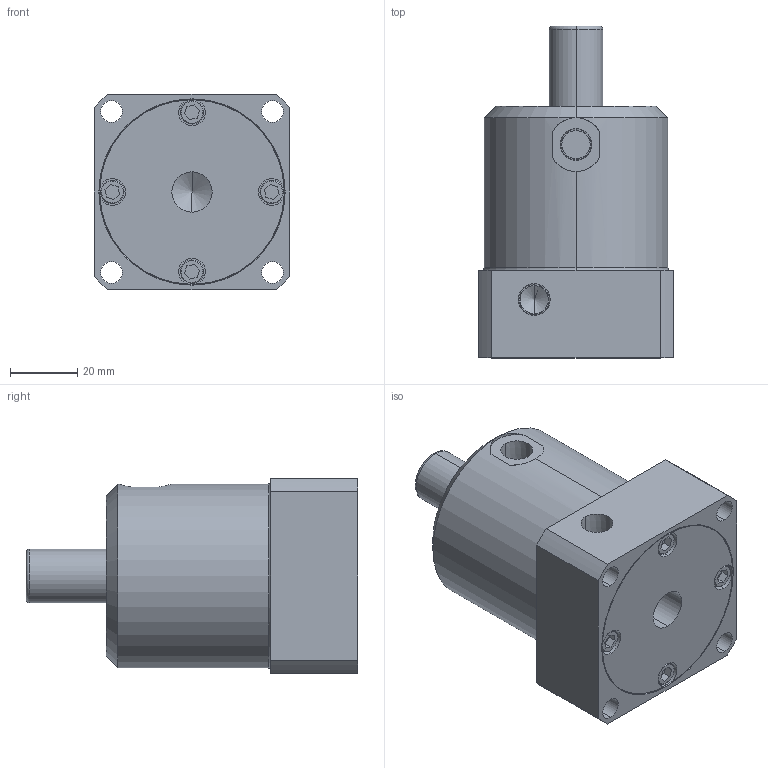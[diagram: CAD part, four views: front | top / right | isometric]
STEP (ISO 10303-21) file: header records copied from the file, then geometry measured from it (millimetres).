
FILE_DESCRIPTION((''),'2;1');
FILE_NAME('001_DESTACO_035_910_ASM','2024-02-28T',('SYSTEM'),(''),'PRO/ENGINEER BY PARAMETRIC TECHNOLOGY CORPORATION, 2016360','PRO/ENGINEER BY PARAMETRIC TECHNOLOGY CORPORATION, 2016360','');
FILE_SCHEMA(('AUTOMOTIVE_DESIGN { 1 0 10303 214 1 1 1 1 }'));
Products named in the file (10): 240BODY_5; 240BODY_6; 240BODY_4; 240BODY_3; 240BODY_2; 240BODY_0; 240-BODY_ASM; 240BODY_1; 240-SHAFT_ASM; 001_DESTACO_035_910_ASM
Assembly tree (9 placements, depth 3):
  001_DESTACO_035_910_ASM
    240-BODY_ASM
      240BODY_5
      240BODY_6
      240BODY_4
      240BODY_3
      240BODY_2
      240BODY_0
    240-SHAFT_ASM
      240BODY_1
Bounding box: 58.3 x 98.88 x 58.3 mm (x, y, z)
Volume: 194669.4 mm3; surface area: 42204.5 mm2
Topology: 7 solids, 7 shells, 162 faces, 376 edges, 238 vertices
Faces by surface type: cylinder 68, plane 60, cone 30, torus 4
Entity records: 6552 total; most frequent: DIRECTION 922, CARTESIAN_POINT 900, ORIENTED_EDGE 740, PRESENTATION_STYLE_ASSIGNMENT 377, STYLED_ITEM 377, CURVE_STYLE 370, EDGE_CURVE 370, AXIS2_PLACEMENT_3D 368
